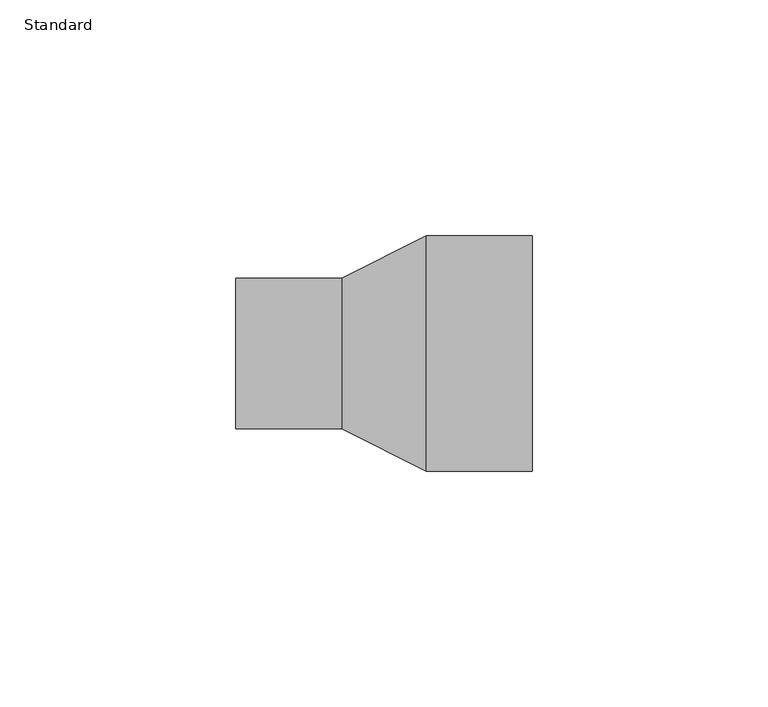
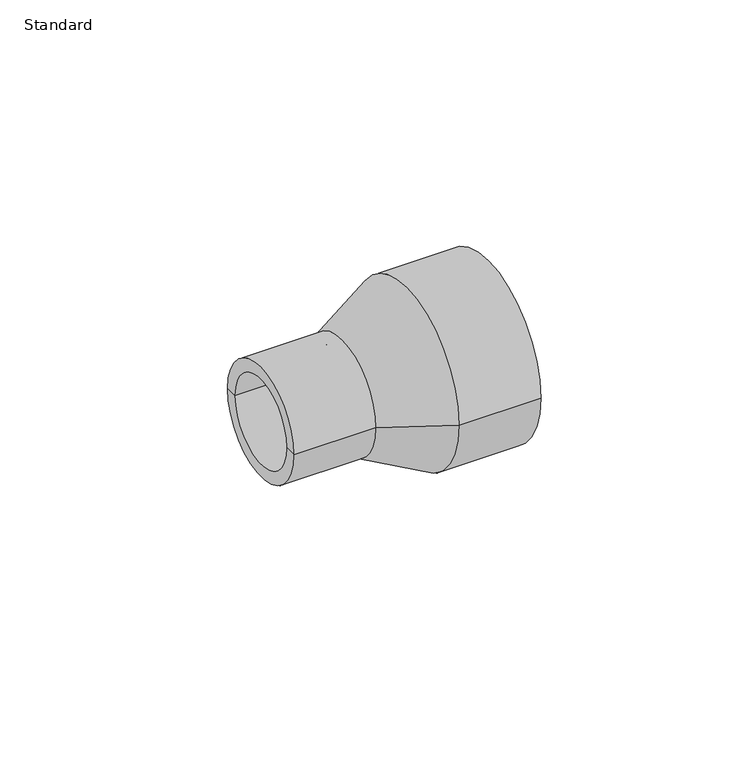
"""IFC4 building model written with IfcOpenShell, lengths in millimetres: pipe fitting geometry, Durapipe_PipeFitting_PVC_Reducers : Standard."""

from ifc_helpers import new_model, si_unit, frame, origin, place, context, project, spatial, polyline, circle_curve, source, transform, mapped, element, save
from ifc_brep_helpers import plane_surface, cylinder_surface, revolved_surface, advanced_brep


def standard_5c3544ee(model_context):
    return source(origin(), model_context, "Body", "AdvancedBrep", [
        advanced_brep(
        [(-31.5, -16.0, 0.0), (-31.5, 16.0, 0.0), (-9.0, 16.0, 0.0), (-9.0, -16.0, 0.0), (-31.5, -12.5, 0.0), (-31.5, 12.5, 0.0), (31.5, -25.0, 0.0), (31.5, 25.0, 0.0), (31.5, 20.0, 0.0), (31.5, -20.0, 0.0), (9.0, -25.0, 0.0), (9.0, 25.0, 0.0), (-9.0, -12.5, 0.0), (-9.0, 12.5, 0.0), (-9.0, 0.0, 0.0), (9.0, -20.0, 0.0), (9.0, 20.0, 0.0), (9.0, 0.0, 0.0)],
        [
            (0, 1, circle_curve(frame((-31.5, 0.0, 0.0), z_axis=(1.0, 0.0, 0.0), x_axis=(0.0, 1.0, 0.0)), 16.0)),
            (1, 2),
            (2, 3, circle_curve(frame((-9.0, 0.0, 0.0), z_axis=(-1.0, 0.0, 0.0), x_axis=(0.0, 1.0, 0.0)), 16.0)),
            (3, 0),
            (1, 0, circle_curve(frame((-31.5, 0.0, 0.0), z_axis=(1.0, 0.0, 0.0), x_axis=(0.0, 1.0, 0.0)), 16.0)),
            (3, 2, circle_curve(frame((-9.0, 0.0, 0.0), z_axis=(-1.0, 0.0, 0.0), x_axis=(0.0, 1.0, 0.0)), 16.0)),
            (4, 5, circle_curve(frame((-31.5, 0.0, 0.0), z_axis=(1.0, 0.0, 0.0), x_axis=(0.0, 1.0, 0.0)), 12.5)),
            (5, 1),
            (0, 4),
            (5, 4, circle_curve(frame((-31.5, 0.0, 0.0), z_axis=(1.0, 0.0, 0.0), x_axis=(0.0, 1.0, 0.0)), 12.5)),
            (6, 7, circle_curve(frame((31.5, 0.0, 0.0), z_axis=(1.0, 0.0, 0.0), x_axis=(0.0, 1.0, 0.0)), 25.0)),
            (7, 8),
            (8, 9, circle_curve(frame((31.5, 0.0, 0.0), z_axis=(-1.0, 0.0, 0.0), x_axis=(0.0, 1.0, 0.0)), 20.0)),
            (9, 6),
            (7, 6, circle_curve(frame((31.5, 0.0, 0.0), z_axis=(1.0, 0.0, 0.0), x_axis=(0.0, 1.0, 0.0)), 25.0)),
            (9, 8, circle_curve(frame((31.5, 0.0, 0.0), z_axis=(-1.0, 0.0, 0.0), x_axis=(0.0, 1.0, 0.0)), 20.0)),
            (10, 11, circle_curve(frame((9.0, 0.0, 0.0), z_axis=(1.0, 0.0, 0.0), x_axis=(0.0, 1.0, 0.0)), 25.0)),
            (11, 7),
            (6, 10),
            (11, 10, circle_curve(frame((9.0, 0.0, 0.0), z_axis=(1.0, 0.0, 0.0), x_axis=(0.0, 1.0, 0.0)), 25.0)),
            (2, 11),
            (10, 3),
            (12, 13, circle_curve(frame((-9.0, 0.0, 0.0), z_axis=(1.0, 0.0, 0.0), x_axis=(0.0, 1.0, 0.0)), 12.5)),
            (13, 5),
            (4, 12),
            (13, 12, circle_curve(frame((-9.0, 0.0, 0.0), z_axis=(1.0, 0.0, 0.0), x_axis=(0.0, 1.0, 0.0)), 12.5)),
            (14, 13),
            (12, 14),
            (15, 16, circle_curve(frame((9.0, 0.0, 0.0), z_axis=(1.0, 0.0, 0.0), x_axis=(0.0, 1.0, 0.0)), 20.0)),
            (16, 17),
            (17, 15),
            (16, 15, circle_curve(frame((9.0, 0.0, 0.0), z_axis=(1.0, 0.0, 0.0), x_axis=(0.0, 1.0, 0.0)), 20.0)),
            (8, 16),
            (15, 9),
        ],
        [
            cylinder_surface(frame((-31.5, 0.0, 0.0), z_axis=(-1.0, 0.0, 0.0), x_axis=(0.0, 1.0, 0.0)), 16.0),
            plane_surface(frame((-31.5, 0.0, 0.0), z_axis=(-1.0, 0.0, 0.0), x_axis=(0.0, 1.0, 0.0))),
            plane_surface(frame((31.5, 0.0, 0.0), z_axis=(1.0, 0.0, 0.0), x_axis=(0.0, 1.0, 0.0))),
            cylinder_surface(frame((-31.5, 0.0, 0.0), z_axis=(-1.0, 0.0, 0.0), x_axis=(0.0, 1.0, 0.0)), 25.0),
            revolved_surface(polyline([(9.0, 25.0, 0.0), (-9.0, 16.0, 0.0)]), (-31.5, 0.0, 0.0), (-1.0, 0.0, 0.0)),
            revolved_surface(polyline([(-31.5, 12.5, 0.0), (-9.0, 12.5, 0.0)]), (-31.5, 0.0, 0.0), (-1.0, 0.0, 0.0)),
            plane_surface(frame((-9.0, 0.0, 0.0), z_axis=(-1.0, 0.0, 0.0), x_axis=(0.0, 1.0, 0.0))),
            plane_surface(frame((9.0, 0.0, 0.0), z_axis=(1.0, 0.0, 0.0), x_axis=(0.0, 1.0, 0.0))),
            revolved_surface(polyline([(9.0, 20.0, 0.0), (31.5, 20.0, 0.0)]), (-31.5, 0.0, 0.0), (-1.0, 0.0, 0.0)),
        ],
        [
            (0, [[1, 2, 3, 4]]),
            (0, [[5, -4, 6, -2]]),
            (1, [[7, 8, -1, 9]]),
            (1, [[10, -9, -5, -8]]),
            (2, [[11, 12, 13, 14]]),
            (2, [[15, -14, 16, -12]]),
            (3, [[17, 18, -11, 19]]),
            (3, [[20, -19, -15, -18]]),
            (4, [[-3, 21, -17, 22]]),
            (4, [[-6, -22, -20, -21]]),
            (5, [[23, 24, -7, 25]]),
            (5, [[26, -25, -10, -24]]),
            (6, [[27, -23, 28]]),
            (6, [[-28, -26, -27]]),
            (7, [[29, 30, 31]]),
            (7, [[32, -31, -30]]),
            (8, [[-13, 33, -29, 34]]),
            (8, [[-16, -34, -32, -33]]),
        ],
    ),
    ])


if __name__ == "__main__":
    model = new_model("IFC4")
    model_context = context("Model", 3, world=origin())
    ifc_project = project(units=[si_unit("LENGTHUNIT", "METRE", prefix="MILLI")], contexts=[model_context])
    site = spatial("IfcSite", under=ifc_project)
    building = spatial("IfcBuilding", under=site)
    placement = place(None, origin())
    standard_shape = standard_5c3544ee(model_context)
    element("IfcPipeFitting", 1, ObjectType="Durapipe_PipeFitting_PVC_Reducers : Standard", at=placement, inside=building, context=model_context, shape_type="MappedRepresentation", body=[
        mapped(standard_shape, transform((0.0, 0.0, 0.0), x_axis=(1.0, 0.0, 0.0), y_axis=(0.0, 1.0, 0.0), z_axis=(0.0, 0.0, 1.0))),
    ])
    save(model, "model.ifc")
